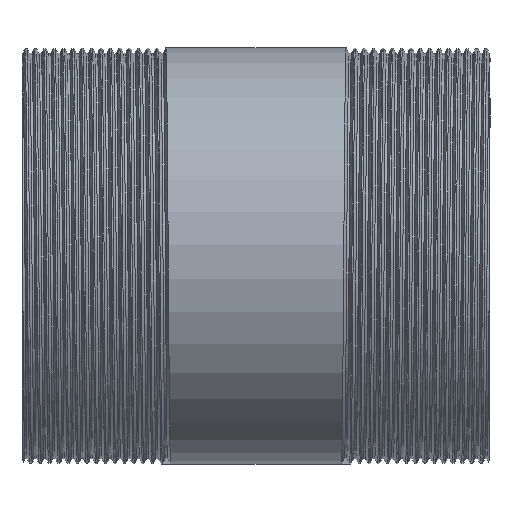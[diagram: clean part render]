
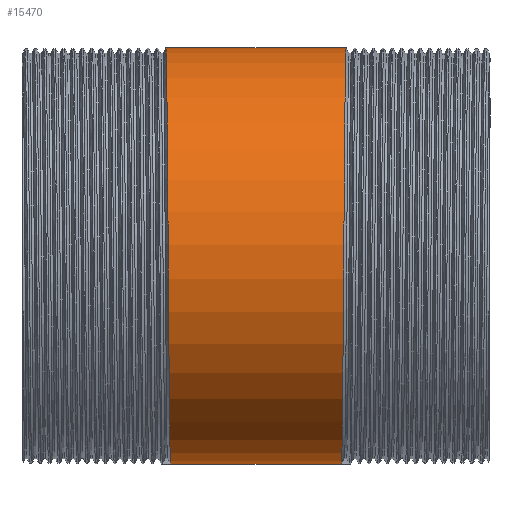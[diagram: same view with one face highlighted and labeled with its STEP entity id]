
A CAD part, front view. The second image highlights one B-rep face of the part: STEP entity #15470.
In plain terms, the highlighted cylindrical face has radius 44.45 mm (diameter 88.9 mm), a partial arc.
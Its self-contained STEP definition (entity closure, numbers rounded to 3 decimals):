
#71 = VERTEX_POINT ( 'NONE', #10552 ) ;
#591 = CYLINDRICAL_SURFACE ( 'NONE', #9023, 44.45 ) ;
#1178 = CARTESIAN_POINT ( 'NONE',  ( -19.25, 0., 44.45 ) ) ;
#1262 = CARTESIAN_POINT ( 'NONE',  ( -149.494, 0., 44.45 ) ) ;
#1361 = VECTOR ( 'NONE', #8327, 1000. ) ;
#1437 = ORIENTED_EDGE ( 'NONE', *, *, #2821, .T. ) ;
#1445 = CARTESIAN_POINT ( 'NONE',  ( -18.85, -42.274, 13.736 ) ) ;
#1524 = CARTESIAN_POINT ( 'NONE',  ( -18.55, -37.811, -27.472 ) ) ;
#1607 = CARTESIAN_POINT ( 'NONE',  ( -19.25, 0., 44.45 ) ) ;
#1622 = VERTEX_POINT ( 'NONE', #4862 ) ;
#1687 = DIRECTION ( 'NONE',  ( -1., 0., 0. ) ) ;
#1693 = CARTESIAN_POINT ( 'NONE',  ( -19.15, -14.443, 44.45 ) ) ;
#2017 = VERTEX_POINT ( 'NONE', #1178 ) ;
#2076 = VERTEX_POINT ( 'NONE', #16524 ) ;
#2082 = CARTESIAN_POINT ( 'NONE',  ( 18.25, 0., -44.45 ) ) ;
#2821 = EDGE_CURVE ( 'NONE', #2076, #2017, #14023, .T. ) ;
#3197 = CARTESIAN_POINT ( 'NONE',  ( -149.494, 0., -44.45 ) ) ;
#3661 = CARTESIAN_POINT ( 'NONE',  ( -19.05, -26.127, 35.961 ) ) ;
#3761 = CARTESIAN_POINT ( 'NONE',  ( 18.85, -42.274, 13.736 ) ) ;
#4085 = EDGE_CURVE ( 'NONE', #1622, #2076, #13643, .T. ) ;
#4322 =( BOUNDED_CURVE ( )  B_SPLINE_CURVE ( 2, ( #6648, #15703, #8074, #1524, #9170, #13194, #1445, #12646, #3661, #1693, #1607 ),
 .UNSPECIFIED., .F., .T. ) 
 B_SPLINE_CURVE_WITH_KNOTS ( ( 3, 2, 2, 2, 2, 3 ),
 ( 0., 0.006, 0.011, 0.017, 0.022, 0.028 ),
 .UNSPECIFIED. ) 
 CURVE ( )  GEOMETRIC_REPRESENTATION_ITEM ( )  RATIONAL_B_SPLINE_CURVE ( ( 1., 0.951, 1., 0.951, 1., 0.951, 1., 0.951, 1., 0.951, 1. ) ) 
 REPRESENTATION_ITEM ( '' )  );
#4627 = LINE ( 'NONE', #3197, #1361 ) ;
#4862 = CARTESIAN_POINT ( 'NONE',  ( 18.25, 0., -44.45 ) ) ;
#6199 = CARTESIAN_POINT ( 'NONE',  ( 18.65, -42.274, -13.736 ) ) ;
#6388 = DIRECTION ( 'NONE',  ( -1., 0., 0. ) ) ;
#6452 = CARTESIAN_POINT ( 'NONE',  ( 18.55, -37.811, -27.472 ) ) ;
#6648 = CARTESIAN_POINT ( 'NONE',  ( -18.25, 0., -44.45 ) ) ;
#6977 = CARTESIAN_POINT ( 'NONE',  ( -149.494, 0., 0. ) ) ;
#7204 = CARTESIAN_POINT ( 'NONE',  ( 18.35, -14.443, -44.45 ) ) ;
#7376 = CARTESIAN_POINT ( 'NONE',  ( 19.05, -26.127, 35.961 ) ) ;
#8074 = CARTESIAN_POINT ( 'NONE',  ( -18.45, -26.127, -35.961 ) ) ;
#8320 = FACE_OUTER_BOUND ( 'NONE', #10026, .T. ) ;
#8327 = DIRECTION ( 'NONE',  ( -1., 0., 0. ) ) ;
#8396 = VECTOR ( 'NONE', #6388, 1000. ) ;
#9023 = AXIS2_PLACEMENT_3D ( 'NONE', #6977, #1687, #15860 ) ;
#9170 = CARTESIAN_POINT ( 'NONE',  ( -18.65, -42.274, -13.736 ) ) ;
#9985 = CARTESIAN_POINT ( 'NONE',  ( 19.15, -14.443, 44.45 ) ) ;
#10026 = EDGE_LOOP ( 'NONE', ( #15252, #11571, #1437, #11326 ) ) ;
#10552 = CARTESIAN_POINT ( 'NONE',  ( -18.25, 0., -44.45 ) ) ;
#11020 = EDGE_CURVE ( 'NONE', #71, #2017, #4322, .T. ) ;
#11036 = EDGE_CURVE ( 'NONE', #1622, #71, #4627, .T. ) ;
#11326 = ORIENTED_EDGE ( 'NONE', *, *, #11020, .F. ) ;
#11571 = ORIENTED_EDGE ( 'NONE', *, *, #4085, .T. ) ;
#12646 = CARTESIAN_POINT ( 'NONE',  ( -18.95, -37.811, 27.472 ) ) ;
#13194 = CARTESIAN_POINT ( 'NONE',  ( -18.75, -46.737, 0. ) ) ;
#13643 =( BOUNDED_CURVE ( )  B_SPLINE_CURVE ( 2, ( #2082, #7204, #16509, #6452, #6199, #15415, #3761, #15173, #7376, #9985, #16424 ),
 .UNSPECIFIED., .F., .T. ) 
 B_SPLINE_CURVE_WITH_KNOTS ( ( 3, 2, 2, 2, 2, 3 ),
 ( 0., 0.006, 0.011, 0.017, 0.022, 0.028 ),
 .UNSPECIFIED. ) 
 CURVE ( )  GEOMETRIC_REPRESENTATION_ITEM ( )  RATIONAL_B_SPLINE_CURVE ( ( 1., 0.951, 1., 0.951, 1., 0.951, 1., 0.951, 1., 0.951, 1. ) ) 
 REPRESENTATION_ITEM ( '' )  );
#14023 = LINE ( 'NONE', #1262, #8396 ) ;
#15173 = CARTESIAN_POINT ( 'NONE',  ( 18.95, -37.811, 27.472 ) ) ;
#15252 = ORIENTED_EDGE ( 'NONE', *, *, #11036, .F. ) ;
#15415 = CARTESIAN_POINT ( 'NONE',  ( 18.75, -46.737, 0. ) ) ;
#15470 = ADVANCED_FACE ( 'NONE', ( #8320 ), #591, .T. ) ;
#15703 = CARTESIAN_POINT ( 'NONE',  ( -18.35, -14.443, -44.45 ) ) ;
#15860 = DIRECTION ( 'NONE',  ( 0., 0., 1. ) ) ;
#16424 = CARTESIAN_POINT ( 'NONE',  ( 19.25, 0., 44.45 ) ) ;
#16509 = CARTESIAN_POINT ( 'NONE',  ( 18.45, -26.127, -35.961 ) ) ;
#16524 = CARTESIAN_POINT ( 'NONE',  ( 19.25, 0., 44.45 ) ) ;
